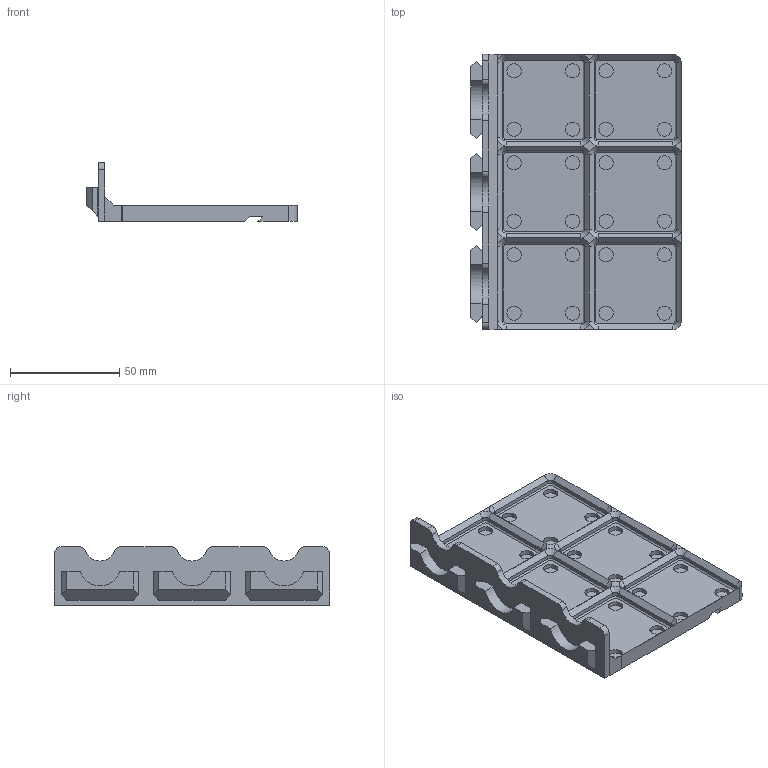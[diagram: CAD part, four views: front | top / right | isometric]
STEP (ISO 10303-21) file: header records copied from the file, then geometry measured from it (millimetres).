
FILE_DESCRIPTION(/* description */ ('','CAx-IF Rec.Pracs.---Representation and Presentation of Product Manufacturing Information (PMI)---4.0---2014-10-13'),/* implementation_level */ '2;1');
FILE_NAME(/* name */ 'Goews Triple Hanger Gridfinity with Magnets 2x3 Base.step',/* time_stamp */ '2024-12-14T22:26:47-05:00',/* author */ (''),/* organization */ (''),/* preprocessor_version */ 'ST-DEVELOPER v20',/* originating_system */ 'Autodesk Translation Framework v13.20.0.188',/* authorisation */ '');
FILE_SCHEMA (('AP242_MANAGED_MODEL_BASED_3D_ENGINEERING_MIM_LF { 1 0 10303 442 1 1 4 }'));
Length unit declared in the file: millimetre
Products named in the file (1): Goews Triple Hanger Gridfinity  with Magnets 2x3 Base
Bounding box: 96.15 x 126 x 26.72 mm (x, y, z)
Volume: 51894.6 mm3; surface area: 36040 mm2
Topology: 1 solids, 1 shells, 301 faces, 644 edges, 372 vertices
Faces by surface type: plane 167, cylinder 86, cone 48
Full cylindrical faces by diameter (mm): 6.5 x24
Entity records: 7953 total; most frequent: DIRECTION 1446, CARTESIAN_POINT 1318, ORIENTED_EDGE 1288, EDGE_CURVE 644, AXIS2_PLACEMENT_3D 500, LINE 446, VECTOR 446, VERTEX_POINT 372
